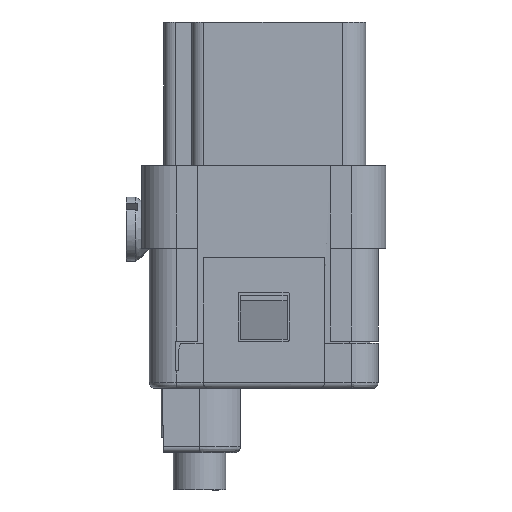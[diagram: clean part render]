
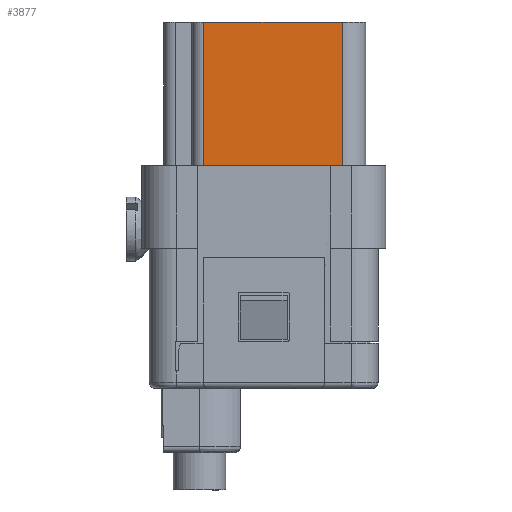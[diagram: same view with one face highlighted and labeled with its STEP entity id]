
A CAD part, front view. The second image highlights one B-rep face of the part: STEP entity #3877.
In plain terms, the highlighted planar face has unit normal (0, -1, 0).
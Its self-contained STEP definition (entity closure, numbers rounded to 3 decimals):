
#3521=FACE_OUTER_BOUND('',#5133,.T.);
#3877=ADVANCED_FACE('',(#3521),#4337,.T.);
#4337=PLANE('',#11441);
#5133=EDGE_LOOP('',(#5997,#5998,#5999,#6000));
#5997=ORIENTED_EDGE('',*,*,#8963,.F.);
#5998=ORIENTED_EDGE('',*,*,#9014,.T.);
#5999=ORIENTED_EDGE('',*,*,#9015,.F.);
#6000=ORIENTED_EDGE('',*,*,#9016,.T.);
#8190=VERTEX_POINT('',#14674);
#8191=VERTEX_POINT('',#14676);
#8238=VERTEX_POINT('',#14784);
#8239=VERTEX_POINT('',#14786);
#8963=EDGE_CURVE('',#8190,#8191,#10047,.T.);
#9014=EDGE_CURVE('',#8190,#8238,#10080,.T.);
#9015=EDGE_CURVE('',#8239,#8238,#10081,.T.);
#9016=EDGE_CURVE('',#8239,#8191,#10082,.T.);
#10047=LINE('',#14675,#10736);
#10080=LINE('',#14783,#10769);
#10081=LINE('',#14785,#10770);
#10082=LINE('',#14787,#10771);
#10736=VECTOR('',#12224,1.);
#10769=VECTOR('',#12313,1.);
#10770=VECTOR('',#12314,1.);
#10771=VECTOR('',#12315,1.);
#11441=AXIS2_PLACEMENT_3D('',#14788,#12316,#12317);
#12224=DIRECTION('',(1.,0.,0.));
#12313=DIRECTION('',(0.,0.,-1.));
#12314=DIRECTION('',(-1.,0.,0.));
#12315=DIRECTION('',(0.,0.,1.));
#12316=DIRECTION('',(0.,-1.,0.));
#12317=DIRECTION('',(-1.,0.,0.));
#14674=CARTESIAN_POINT('',(-5.15,-8.95,17.75));
#14675=CARTESIAN_POINT('',(-8.983,-8.95,17.75));
#14676=CARTESIAN_POINT('',(6.75,-8.95,17.75));
#14783=CARTESIAN_POINT('',(-5.15,-8.95,17.45));
#14784=CARTESIAN_POINT('',(-5.15,-8.95,5.45));
#14785=CARTESIAN_POINT('',(6.75,-8.95,5.45));
#14786=CARTESIAN_POINT('',(6.75,-8.95,5.45));
#14787=CARTESIAN_POINT('',(6.75,-8.95,5.45));
#14788=CARTESIAN_POINT('',(-6.55,-8.95,5.45));
